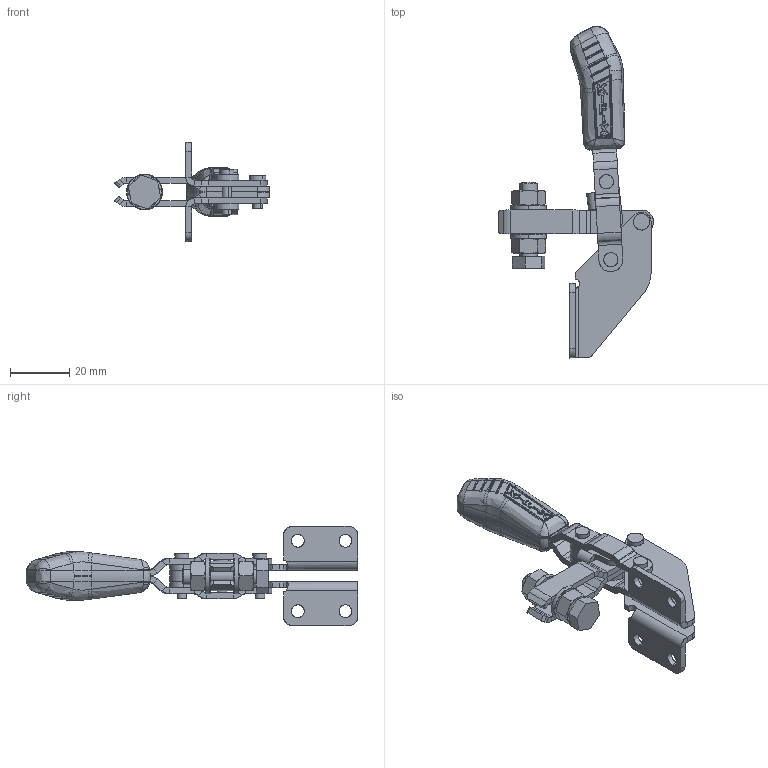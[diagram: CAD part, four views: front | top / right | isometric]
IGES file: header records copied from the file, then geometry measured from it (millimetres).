
Start section: SolidWorks IGES file using analytic representation for surfaces
Global section: file name: C:\Projetos\Grampos\KF-010\KF-010 F\KF-010 F.IGS; native system: SolidWorks 2013; preprocessor: SolidWorks 2013; author: Ricardo; date: 140728.092301; units: millimetre
Bounding box: 52.09 x 111.59 x 33.3 mm (x, y, z)
Surface area: 17100.7 mm2 (no closed solid volume)
Topology: 0 solids, 0 shells, 1139 faces, 11821 edges, 11798 vertices
Faces by surface type: bspline 647, revolution 492
